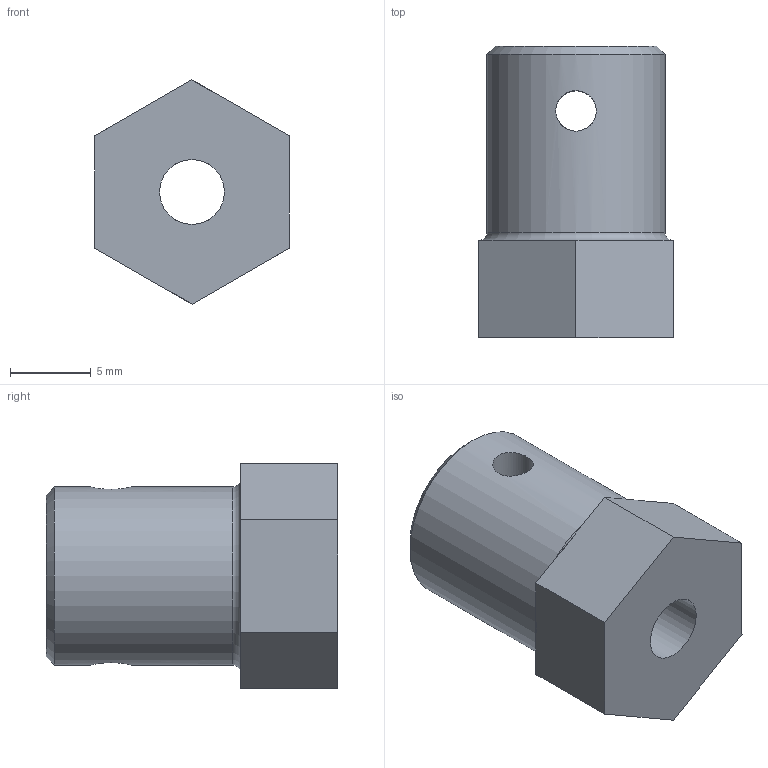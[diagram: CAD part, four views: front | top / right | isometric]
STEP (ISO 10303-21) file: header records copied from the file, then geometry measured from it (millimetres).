
FILE_DESCRIPTION(/* description */ ('STEP AP242 Edition 2','CAx-IF Rec.Pracs.---Representation and Presentation of Product Manufacturing Information (PMI)---4.0---2014-10-13','CAx-IF Rec.Pracs.---3D Tessellated Geometry---0.4---2014-09-14','2;1','CAx-IF Rec.Pracs.---User Defined Attributes---1.5---2016-08-15'),/* implementation_level */ '2;1');
FILE_NAME(/* name */ 'Assem2h - HexNut (3)',/* time_stamp */ '2025-12-01T14:50:25Z',/* author */ (''),/* organization */ (''),/* preprocessor_version */ 'ST-DEVELOPER v20',/* originating_system */ 'ONSHAPE BY PTC INC, 1.207',/* authorisation */ ' ');
FILE_SCHEMA (('AP242_MANAGED_MODEL_BASED_3D_ENGINEERING_MIM_LF { 1 0 10303 442 3 1 4 }'));
Length unit declared in the file: metre
Products named in the file (1): HexNut
Bounding box: 12 x 18 x 13.86 mm (x, y, z)
Volume: 1625.1 mm3; surface area: 1133.8 mm2
Topology: 1 solids, 1 shells, 20 faces, 51 edges, 31 vertices
Faces by surface type: plane 14, cylinder 4, cone 1, torus 1
Full cylindrical faces by diameter (mm): 2.5 x2, 4 x1, 11 x1
Entity records: 588 total; most frequent: CARTESIAN_POINT 131, DIRECTION 88, ORIENTED_EDGE 78, EDGE_CURVE 39, EDGE_LOOP 32, FACE_BOUND 32, AXIS2_PLACEMENT_3D 32, VERTEX_POINT 27
